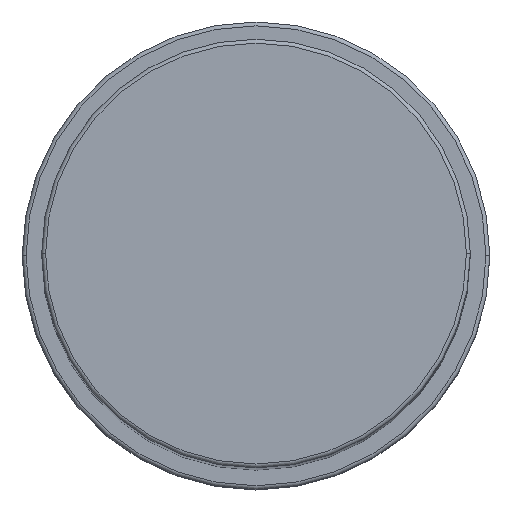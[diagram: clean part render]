
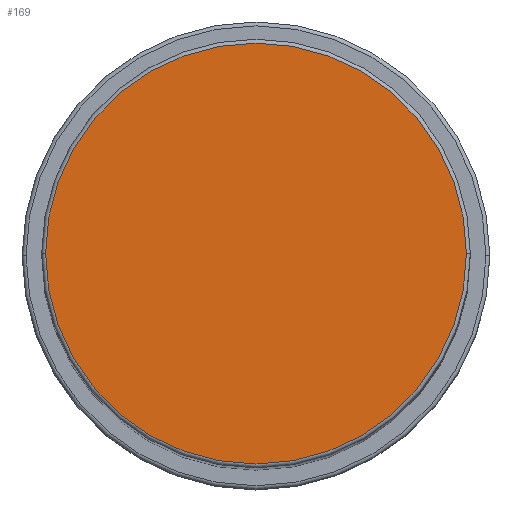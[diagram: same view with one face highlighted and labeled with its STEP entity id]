
A CAD part, top view. The second image highlights one B-rep face of the part: STEP entity #169.
In plain terms, the highlighted planar face has unit normal (0, 0, 1).
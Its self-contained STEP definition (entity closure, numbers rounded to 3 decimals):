
#19 = EDGE_CURVE ( 'NONE', #136, #492, #90, .T. ) ;
#90 = CIRCLE ( 'NONE', #1024, 27. ) ;
#122 = CIRCLE ( 'NONE', #882, 27. ) ;
#136 = VERTEX_POINT ( 'NONE', #1419 ) ;
#169 = ADVANCED_FACE ( 'NONE', ( #930 ), #802, .T. ) ;
#171 = DIRECTION ( 'NONE',  ( 1., 0., 0. ) ) ;
#200 = ORIENTED_EDGE ( 'NONE', *, *, #19, .T. ) ;
#325 = DIRECTION ( 'NONE',  ( 0., 0., 1. ) ) ;
#386 = DIRECTION ( 'NONE',  ( 1., 0., 0. ) ) ;
#453 = AXIS2_PLACEMENT_3D ( 'NONE', #1177, #546, #171 ) ;
#473 = EDGE_LOOP ( 'NONE', ( #200, #932 ) ) ;
#492 = VERTEX_POINT ( 'NONE', #748 ) ;
#546 = DIRECTION ( 'NONE',  ( 0., 0., 1. ) ) ;
#748 = CARTESIAN_POINT ( 'NONE',  ( -27., 0., 178. ) ) ;
#802 = PLANE ( 'NONE',  #453 ) ;
#882 = AXIS2_PLACEMENT_3D ( 'NONE', #1320, #325, #1197 ) ;
#930 = FACE_OUTER_BOUND ( 'NONE', #473, .T. ) ;
#932 = ORIENTED_EDGE ( 'NONE', *, *, #1519, .T. ) ;
#1024 = AXIS2_PLACEMENT_3D ( 'NONE', #1155, #1659, #386 ) ;
#1155 = CARTESIAN_POINT ( 'NONE',  ( 0., 0., 178. ) ) ;
#1177 = CARTESIAN_POINT ( 'NONE',  ( 0., 0., 178. ) ) ;
#1197 = DIRECTION ( 'NONE',  ( 1., 0., 0. ) ) ;
#1320 = CARTESIAN_POINT ( 'NONE',  ( 0., 0., 178. ) ) ;
#1419 = CARTESIAN_POINT ( 'NONE',  ( 27., 0., 178. ) ) ;
#1519 = EDGE_CURVE ( 'NONE', #492, #136, #122, .T. ) ;
#1659 = DIRECTION ( 'NONE',  ( 0., 0., 1. ) ) ;
